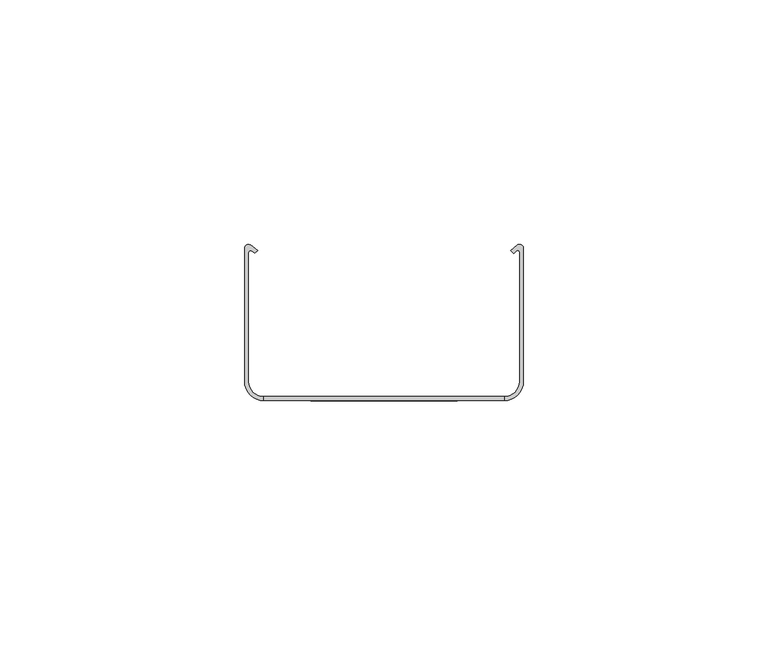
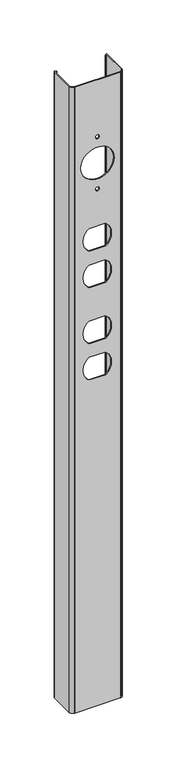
"""IFC4 building model written with IfcOpenShell, lengths in millimetres: proxy geometry, Accessory-Wiremold-Add-on_Power_Cover : 25DTP-A."""

import ifcopenshell
import ifcopenshell.guid

model = None  # the IFC model being written
_history = None  # IfcOwnerHistory: only IFC2X3 demands one
_inside = {}  # id of a spatial element -> (the spatial element, [elements in it])
_under = {}  # id of a project, library or spatial element -> (it, [spatial elements below it])
_declared = {}  # id of a project -> (the project, [libraries it declares])
_typed = {}  # id of a type object -> (the type object, [elements of that type])
_made_of = {}  # id of a material, layer set ... -> (it, [elements and type objects made of it])


def new_model(schema):
    """Start an empty IFC model of exactly this schema.

    Asked for "IFC4X3", IfcOpenShell would pick the latest addendum, in which some entities
    have other attributes; the version numbers below select the first issue.
    IFC2X3 requires an IfcOwnerHistory on every rooted entity: one is made here for all.
    """
    global model, _history
    if schema == "IFC4X3":
        model = ifcopenshell.file(schema_version=(4, 3, 0, 0))
    else:
        model = ifcopenshell.file(schema=schema)
    _inside.clear()
    _under.clear()
    _declared.clear()
    _typed.clear()
    _made_of.clear()
    _history = None
    if model.schema == "IFC2X3":
        org = make("IfcOrganization", Name="unknown")
        user = make(
            "IfcPersonAndOrganization",
            ThePerson=make("IfcPerson", FamilyName="unknown"),
            TheOrganization=org,
        )
        app = make(
            "IfcApplication",
            ApplicationDeveloper=org,
            Version="unknown",
            ApplicationFullName="unknown",
            ApplicationIdentifier="unknown",
        )
        _history = make(
            "IfcOwnerHistory",
            OwningUser=user,
            OwningApplication=app,
            ChangeAction="ADDED",
            CreationDate=0,
        )
    return model


def make(cls, **values):
    """One entity of the class cls with the attributes given. An attribute that is None is left unset."""
    return model.create_entity(
        cls, **{name: value for name, value in values.items() if value is not None}
    )


def rooted(cls, **values):
    """An entity with a GlobalId (a new one), such as an element, a storey or a relation."""
    return make(cls, GlobalId=ifcopenshell.guid.new(), OwnerHistory=_history, **values)


def si_unit(unit_type, name, prefix=None):
    """IfcSIUnit, for example si_unit("LENGTHUNIT", "METRE", prefix="MILLI")."""
    return make("IfcSIUnit", UnitType=unit_type, Prefix=prefix, Name=name)


def assignment(units):
    """IfcUnitAssignment: the units of a project."""
    return None if units is None else make("IfcUnitAssignment", Units=units)


def point(xyz):
    """IfcCartesianPoint."""
    return None if xyz is None else make("IfcCartesianPoint", Coordinates=xyz)


def direction(xyz):
    """IfcDirection."""
    return None if xyz is None else make("IfcDirection", DirectionRatios=xyz)


def frame(location, z_axis=None, x_axis=None):
    """IfcAxis2Placement3D, a coordinate frame: its origin and axes. An axis left out is left unset."""
    return make(
        "IfcAxis2Placement3D",
        Location=point(location),
        Axis=direction(z_axis),
        RefDirection=direction(x_axis),
    )


def frame_2d(location, x_axis=None):
    """IfcAxis2Placement2D, a coordinate frame in the plane: its origin and x axis."""
    return make(
        "IfcAxis2Placement2D", Location=point(location), RefDirection=direction(x_axis)
    )


def origin():
    """The frame at (0, 0, 0) with its axes left unset."""
    return frame((0.0, 0.0, 0.0))


def origin_with_axes():
    """The frame at (0, 0, 0) with the z axis (0, 0, 1) and the x axis (1, 0, 0) written out."""
    return frame((0.0, 0.0, 0.0), z_axis=(0.0, 0.0, 1.0), x_axis=(1.0, 0.0, 0.0))


def place(relative_to, where):
    """IfcLocalPlacement: puts the frame where relative to a parent placement (None: the world)."""
    return make(
        "IfcLocalPlacement", PlacementRelTo=relative_to, RelativePlacement=where
    )


def context(
    kind, dimensions, precision=None, world=None, true_north=None, identifier=None
):
    """IfcGeometricRepresentationContext, for example the 3D "Model" context."""
    return make(
        "IfcGeometricRepresentationContext",
        ContextIdentifier=identifier,
        ContextType=kind,
        CoordinateSpaceDimension=dimensions,
        Precision=precision,
        WorldCoordinateSystem=world,
        TrueNorth=true_north,
    )


def project(units=None, contexts=None):
    """IfcProject with its units and contexts."""
    return rooted(
        "IfcProject",
        Name="project",
        RepresentationContexts=contexts,
        UnitsInContext=assignment(units),
    )


def spatial(cls, under=None, at=None, **own):
    """A site, building, storey or space (cls), placed at a placement, below another one or the project."""
    s = rooted(cls, ObjectPlacement=at, **own)
    if under is not None:
        _under.setdefault(under.id(), (under, []))[1].append(s)
    return s


def polyline(points):
    """IfcPolyline through the points."""
    return make("IfcPolyline", Points=[point(p) for p in points])


def circle_curve(where, radius):
    """IfcCircle in the frame where."""
    return make("IfcCircle", Position=where, Radius=radius)


def trimmed(basis, trim1, trim2, sense, master):
    """IfcTrimmedCurve: the piece of a basis curve between two trims."""
    return make(
        "IfcTrimmedCurve",
        BasisCurve=basis,
        Trim1=trim1,
        Trim2=trim2,
        SenseAgreement=sense,
        MasterRepresentation=master,
    )


def segment(curve, same_sense, transition):
    """IfcCompositeCurveSegment."""
    return make(
        "IfcCompositeCurveSegment",
        Transition=transition,
        SameSense=same_sense,
        ParentCurve=curve,
    )


def composite_curve(segments, self_intersect=None):
    """IfcCompositeCurve: segments joined end to end."""
    return make("IfcCompositeCurve", Segments=segments, SelfIntersect=self_intersect)


def outline(outer, holes=None, kind="AREA"):
    """IfcArbitraryClosedProfileDef: a profile drawn as a closed curve; with holes, ...WithVoids."""
    if holes is None:
        return make("IfcArbitraryClosedProfileDef", ProfileType=kind, OuterCurve=outer)
    return make(
        "IfcArbitraryProfileDefWithVoids",
        ProfileType=kind,
        OuterCurve=outer,
        InnerCurves=holes,
    )


def extrude(swept, where, along, depth):
    """IfcExtrudedAreaSolid: the profile swept, set in the frame where, extruded along a direction by depth."""
    return make(
        "IfcExtrudedAreaSolid",
        SweptArea=swept,
        Position=where,
        ExtrudedDirection=direction(along),
        Depth=depth,
    )


def shape(context_of_items, identifier, shape_type, items):
    """IfcShapeRepresentation: the items that make up one representation, for example the "Body"."""
    return make(
        "IfcShapeRepresentation",
        ContextOfItems=context_of_items,
        RepresentationIdentifier=identifier,
        RepresentationType=shape_type,
        Items=items,
    )


def source(mapping_origin, context_of_items, identifier, shape_type, items):
    """IfcRepresentationMap: a shape defined once, which mapped items show again and again."""
    return make(
        "IfcRepresentationMap",
        MappingOrigin=mapping_origin,
        MappedRepresentation=shape(context_of_items, identifier, shape_type, items),
    )


def transform(
    local_origin,
    x_axis=None,
    y_axis=None,
    z_axis=None,
    scale=None,
    scale2=None,
    scale3=None,
    uniform=True,
):
    """IfcCartesianTransformationOperator3D, or its non-uniform kind. x_axis, y_axis, z_axis: its Axis1, 2, 3."""
    if uniform:
        return make(
            "IfcCartesianTransformationOperator3D",
            Axis1=direction(x_axis),
            Axis2=direction(y_axis),
            LocalOrigin=point(local_origin),
            Scale=scale,
            Axis3=direction(z_axis),
        )
    return make(
        "IfcCartesianTransformationOperator3DnonUniform",
        Axis1=direction(x_axis),
        Axis2=direction(y_axis),
        LocalOrigin=point(local_origin),
        Scale=scale,
        Axis3=direction(z_axis),
        Scale2=scale2,
        Scale3=scale3,
    )


def mapped(mapping_source, mapping_target):
    """IfcMappedItem: shows the shape of a source again, moved by a transform."""
    return make(
        "IfcMappedItem", MappingSource=mapping_source, MappingTarget=mapping_target
    )


def made_of(thing, what):
    """Note that an element or type object is made of a material, layer set ...; save() writes the relation."""
    if what is not None:
        _made_of.setdefault(what.id(), (what, []))[1].append(thing)
    return thing


def element(
    cls,
    number,
    at=None,
    inside=None,
    cuts=None,
    type_object=None,
    material=None,
    context=None,
    identifier="Body",
    shape_type=None,
    held_by="IfcProductDefinitionShape",
    body=None,
    shapes=None,
    **own,
):
    """One element of the class cls, such as IfcWall. Its Tag is "e" and its number.

    at: its placement. inside: the storey or other place that contains it. cuts: it is an
    opening in that element (IfcRelVoidsElement). A single representation is given by context,
    identifier, shape_type and body (its items); several are given by shapes. held_by: the class
    of the entity that holds the representations. save() writes the other relations.
    """
    e = rooted(cls, Tag="e%d" % number, ObjectPlacement=at, **own)
    if body is not None:
        shapes = [shape(context, identifier, shape_type, body)]
    if shapes is not None:
        e.Representation = make(held_by, Representations=shapes)
    if inside is not None:
        _inside.setdefault(inside.id(), (inside, []))[1].append(e)
    if cuts is not None:
        rooted(
            "IfcRelVoidsElement", RelatingBuildingElement=cuts, RelatedOpeningElement=e
        )
    if type_object is not None:
        _typed.setdefault(type_object.id(), (type_object, []))[1].append(e)
    return made_of(e, material)


def aggregate(whole, parts):
    """IfcRelAggregates: a whole, such as a stair, and the parts it consists of."""
    return rooted("IfcRelAggregates", RelatingObject=whole, RelatedObjects=parts)


def save(model, path):
    """Write the relations noted so far, then the file.

    IfcRelAggregates (storeys below a building ...), IfcRelContainedInSpatialStructure (elements
    in a storey), IfcRelDefinesByType, IfcRelAssociatesMaterial and IfcRelDeclares: one each for
    every whole, place, type object, material and project.
    """
    for whole, parts in _under.values():
        aggregate(whole, parts)
    for where, things in _inside.values():
        rooted(
            "IfcRelContainedInSpatialStructure",
            RelatedElements=things,
            RelatingStructure=where,
        )
    for kind, things in _typed.values():
        rooted("IfcRelDefinesByType", RelatedObjects=things, RelatingType=kind)
    for what, things in _made_of.values():
        rooted("IfcRelAssociatesMaterial", RelatedObjects=things, RelatingMaterial=what)
    for by, libraries in _declared.values():
        rooted("IfcRelDeclares", RelatingContext=by, RelatedDefinitions=libraries)
    model.write(path)


def electrical_fixtures_d45ce10f(model_context):
    return source(origin(), model_context, "Body", "SweptSolid", [
        extrude(outline(polyline([(711.0, 24.575), (711.0, -24.575), (0.0, -24.575), (0.0, 24.575), (711.0, 24.575)]), holes=[composite_curve([segment(trimmed(circle_curve(frame_2d((646.0030011, 0.0)), 2.0), [point((646.0030011, -2.0))], [point((646.0030011, 2.0))], True, "CARTESIAN"), True, "CONTINUOUS"), segment(trimmed(circle_curve(frame_2d((646.0030011, 0.0)), 2.0), [point((646.0030011, 2.0))], [point((646.0030011, -2.0))], True, "CARTESIAN"), True, "CONTINUOUS")], self_intersect=False), composite_curve([segment(trimmed(circle_curve(frame_2d((616.2755652, 0.0)), 18.0), [point((616.2755652, -18.0))], [point((616.2755652, 18.0))], True, "CARTESIAN"), True, "CONTINUOUS"), segment(trimmed(circle_curve(frame_2d((616.2755652, 0.0)), 18.0), [point((616.2755652, 18.0))], [point((616.2755652, -18.0))], True, "CARTESIAN"), True, "CONTINUOUS")], self_intersect=False), composite_curve([segment(trimmed(circle_curve(frame_2d((586.8329521, 0.0)), 2.0), [point((586.8329521, -2.0))], [point((586.8329521, 2.0))], True, "CARTESIAN"), True, "CONTINUOUS"), segment(trimmed(circle_curve(frame_2d((586.8329521, 0.0)), 2.0), [point((586.8329521, 2.0))], [point((586.8329521, -2.0))], True, "CARTESIAN"), True, "CONTINUOUS")], self_intersect=False), composite_curve([segment(trimmed(circle_curve(frame_2d((489.54558, -0.9909304)), 14.0269036), [point((477.8477261, -8.7313592))], [point((489.54558, -15.017834))], True, "CARTESIAN"), True, "CONTINUOUS"), segment(polyline([(489.54558, -15.017834), (491.5529331, -15.017834)]), True, "CONTINUOUS"), segment(trimmed(circle_curve(frame_2d((491.5529331, -0.9967117)), 14.0211223), [point((491.5529331, -15.017834))], [point((503.3329521, -8.6008568))], True, "CARTESIAN"), True, "CONTINUOUS"), segment(polyline([(503.3329521, -8.6008568), (503.3329521, 8.6011223)]), True, "CONTINUOUS"), segment(trimmed(circle_curve(frame_2d((491.5951343, 0.9958893)), 13.9862766), [point((503.3329521, 8.6011223))], [point((491.5951343, 14.982166))], True, "CARTESIAN"), True, "CONTINUOUS"), segment(polyline([(491.5951343, 14.982166), (489.5076313, 14.982166)]), True, "CONTINUOUS"), segment(trimmed(circle_curve(frame_2d((489.5076313, 0.982166)), 14.0), [point((489.5076313, 14.982166))], [point((477.8477261, 8.7311408))], True, "CARTESIAN"), True, "CONTINUOUS"), segment(polyline([(477.8477261, 8.7311408), (477.8477261, -8.7313592)]), True, "CONTINUOUS")], self_intersect=False), composite_curve([segment(trimmed(circle_curve(frame_2d((530.9073626, -0.9909304)), 14.0269036), [point((519.2095086, -8.7313592))], [point((530.9073626, -15.017834))], True, "CARTESIAN"), True, "CONTINUOUS"), segment(polyline([(530.9073626, -15.017834), (532.9147157, -15.017834)]), True, "CONTINUOUS"), segment(trimmed(circle_curve(frame_2d((532.9147157, -0.9967117)), 14.0211223), [point((532.9147157, -15.017834))], [point((544.6947347, -8.6008568))], True, "CARTESIAN"), True, "CONTINUOUS"), segment(polyline([(544.6947347, -8.6008568), (544.6947347, 8.6011223)]), True, "CONTINUOUS"), segment(trimmed(circle_curve(frame_2d((532.9569169, 0.9958893)), 13.9862766), [point((544.6947347, 8.6011223))], [point((532.9569169, 14.982166))], True, "CARTESIAN"), True, "CONTINUOUS"), segment(polyline([(532.9569169, 14.982166), (530.8694138, 14.982166)]), True, "CONTINUOUS"), segment(trimmed(circle_curve(frame_2d((530.8694138, 0.982166)), 14.0), [point((530.8694138, 14.982166))], [point((519.2095086, 8.7311408))], True, "CARTESIAN"), True, "CONTINUOUS"), segment(polyline([(519.2095086, 8.7311408), (519.2095086, -8.7313592)]), True, "CONTINUOUS")], self_intersect=False), composite_curve([segment(trimmed(circle_curve(frame_2d((384.5603539, -0.9909304)), 14.0269036), [point((372.8625, -8.7313592))], [point((384.5603539, -15.017834))], True, "CARTESIAN"), True, "CONTINUOUS"), segment(polyline([(384.5603539, -15.017834), (386.5677071, -15.017834)]), True, "CONTINUOUS"), segment(trimmed(circle_curve(frame_2d((386.5677071, -0.9967117)), 14.0211223), [point((386.5677071, -15.017834))], [point((398.3477261, -8.6008568))], True, "CARTESIAN"), True, "CONTINUOUS"), segment(polyline([(398.3477261, -8.6008568), (398.3477261, 8.6011223)]), True, "CONTINUOUS"), segment(trimmed(circle_curve(frame_2d((386.6099083, 0.9958893)), 13.9862766), [point((398.3477261, 8.6011223))], [point((386.6099083, 14.982166))], True, "CARTESIAN"), True, "CONTINUOUS"), segment(polyline([(386.6099083, 14.982166), (384.5224052, 14.982166)]), True, "CONTINUOUS"), segment(trimmed(circle_curve(frame_2d((384.5224052, 0.982166)), 14.0), [point((384.5224052, 14.982166))], [point((372.8625, 8.7311408))], True, "CARTESIAN"), True, "CONTINUOUS"), segment(polyline([(372.8625, 8.7311408), (372.8625, -8.7313592)]), True, "CONTINUOUS")], self_intersect=False), composite_curve([segment(trimmed(circle_curve(frame_2d((425.9221365, -0.9909304)), 14.0269036), [point((414.2242826, -8.7313592))], [point((425.9221365, -15.017834))], True, "CARTESIAN"), True, "CONTINUOUS"), segment(polyline([(425.9221365, -15.017834), (427.9294896, -15.017834)]), True, "CONTINUOUS"), segment(trimmed(circle_curve(frame_2d((427.9294896, -0.9967117)), 14.0211223), [point((427.9294896, -15.017834))], [point((439.7095086, -8.6008568))], True, "CARTESIAN"), True, "CONTINUOUS"), segment(polyline([(439.7095086, -8.6008568), (439.7095086, 8.6011223)]), True, "CONTINUOUS"), segment(trimmed(circle_curve(frame_2d((427.9716909, 0.9958893)), 13.9862766), [point((439.7095086, 8.6011223))], [point((427.9716909, 14.982166))], True, "CARTESIAN"), True, "CONTINUOUS"), segment(polyline([(427.9716909, 14.982166), (425.8841878, 14.982166)]), True, "CONTINUOUS"), segment(trimmed(circle_curve(frame_2d((425.8841878, 0.982166)), 14.0), [point((425.8841878, 14.982166))], [point((414.2242826, 8.7311408))], True, "CARTESIAN"), True, "CONTINUOUS"), segment(polyline([(414.2242826, 8.7311408), (414.2242826, -8.7313592)]), True, "CONTINUOUS")], self_intersect=False)]), frame((0.0, 0.0, 0.0), z_axis=(0.0, 1.0, 0.0), x_axis=(0.0, 0.0, 1.0)), (0.0, 0.0, 1.0), 0.8),
        extrude(outline(composite_curve([segment(trimmed(circle_curve(frame_2d((-27.7048045, 31.1398141)), 0.7951955), [point((-28.5, 31.1398141))], [point((-27.2394932, 31.7846563))], False, "CARTESIAN"), True, "CONTINUOUS"), segment(polyline([(-27.2394932, 31.7846563), (-25.7944589, 30.7419348), (-26.3830792, 30.1533145), (-27.0991279, 30.6700076)]), True, "CONTINUOUS"), segment(trimmed(circle_curve(frame_2d((-27.3209375, 30.3626173)), 0.3790625), [point((-27.0991279, 30.6700076))], [point((-27.7, 30.3626173))], True, "CARTESIAN"), True, "CONTINUOUS"), segment(polyline([(-27.7, 30.3626173), (-27.7, 3.925)]), True, "CONTINUOUS"), segment(trimmed(circle_curve(frame_2d((-24.575, 3.925)), 3.125), [point((-27.7, 3.925))], [point((-24.575, 0.8))], True, "CARTESIAN"), True, "CONTINUOUS"), segment(polyline([(-24.575, 0.8), (-24.575, 0.0)]), True, "CONTINUOUS"), segment(trimmed(circle_curve(frame_2d((-24.575, 3.925)), 3.925), [point((-24.575, 0.0))], [point((-28.5, 3.925))], False, "CARTESIAN"), True, "CONTINUOUS"), segment(polyline([(-28.5, 3.925), (-28.5, 31.1398141)]), True, "CONTINUOUS")], self_intersect=False)), origin_with_axes(), (0.0, 0.0, 1.0), 711.0),
        extrude(outline(composite_curve([segment(trimmed(circle_curve(frame_2d((24.575, 3.925)), 3.925), [point((28.5, 3.925))], [point((24.575, 0.0))], False, "CARTESIAN"), True, "CONTINUOUS"), segment(polyline([(24.575, 0.0), (24.575, 0.8)]), True, "CONTINUOUS"), segment(trimmed(circle_curve(frame_2d((24.575, 3.925)), 3.125), [point((24.575, 0.8))], [point((27.7, 3.925))], True, "CARTESIAN"), True, "CONTINUOUS"), segment(polyline([(27.7, 3.925), (27.7, 30.4180475)]), True, "CONTINUOUS"), segment(trimmed(circle_curve(frame_2d((27.3467453, 30.4180475)), 0.3532547), [point((27.7, 30.4180475))], [point((27.0969566, 30.6678363))], True, "CARTESIAN"), True, "CONTINUOUS"), segment(polyline([(27.0969566, 30.6678363), (26.557757, 30.0536367), (25.8694589, 30.6578866), (27.2394932, 31.7846563)]), True, "CONTINUOUS"), segment(trimmed(circle_curve(frame_2d((27.7261879, 31.1830638)), 0.7738121), [point((27.2394932, 31.7846563))], [point((28.5, 31.1830638))], False, "CARTESIAN"), True, "CONTINUOUS"), segment(polyline([(28.5, 31.1830638), (28.5, 3.925)]), True, "CONTINUOUS")], self_intersect=False)), origin_with_axes(), (0.0, 0.0, 1.0), 711.0),
    ])


if __name__ == "__main__":
    model = new_model("IFC4")
    model_context = context("Model", 3, world=origin())
    ifc_project = project(units=[si_unit("LENGTHUNIT", "METRE", prefix="MILLI")], contexts=[model_context])
    site = spatial("IfcSite", under=ifc_project)
    building = spatial("IfcBuilding", under=site)
    placement = place(None, origin())
    electrical_fixtures_shape = electrical_fixtures_d45ce10f(model_context)
    element("IfcBuildingElementProxy", 1, Name="Accessory-Wiremold-Add-on_Power_Cover : 25DTP-A", ObjectType="Accessory-Wiremold-Add-on_Power_Cover : 25DTP-A", at=placement, inside=building, context=model_context, shape_type="MappedRepresentation", body=[
        mapped(electrical_fixtures_shape, transform((0.0, 0.0, 0.0), x_axis=(1.0, 0.0, 0.0), y_axis=(0.0, 1.0, 0.0), z_axis=(0.0, 0.0, 1.0))),
    ])
    save(model, "model.ifc")
